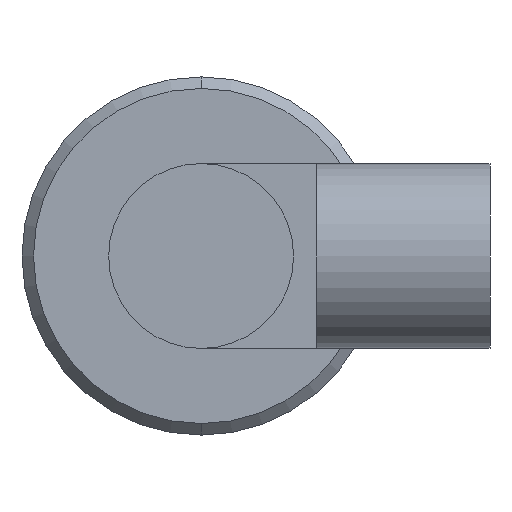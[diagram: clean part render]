
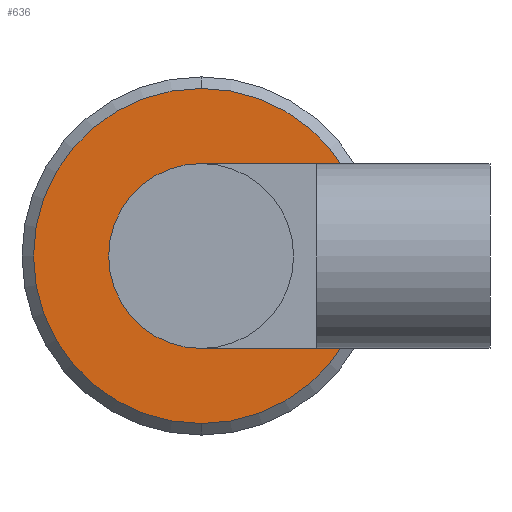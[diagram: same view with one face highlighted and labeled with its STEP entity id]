
A CAD part, left-side view. The second image highlights one B-rep face of the part: STEP entity #636.
In plain terms, the highlighted planar face has unit normal (-1, 0, 0).
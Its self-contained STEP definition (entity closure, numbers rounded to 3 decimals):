
#39 = VERTEX_POINT ( 'NONE', #258 ) ;
#66 = EDGE_CURVE ( 'NONE', #219, #39, #271, .T. ) ;
#70 = DIRECTION ( 'NONE',  ( 0., 0., -1. ) ) ;
#102 = AXIS2_PLACEMENT_3D ( 'NONE', #1330, #709, #70 ) ;
#138 = EDGE_CURVE ( 'NONE', #39, #219, #742, .T. ) ;
#177 = AXIS2_PLACEMENT_3D ( 'NONE', #812, #184, #918 ) ;
#184 = DIRECTION ( 'NONE',  ( 1., 0., 0. ) ) ;
#219 = VERTEX_POINT ( 'NONE', #1132 ) ;
#258 = CARTESIAN_POINT ( 'NONE',  ( 96.4, 0., 14.5 ) ) ;
#271 = CIRCLE ( 'NONE', #778, 14.5 ) ;
#294 = FACE_OUTER_BOUND ( 'NONE', #660, .T. ) ;
#301 = DIRECTION ( 'NONE',  ( -1., 0., 0. ) ) ;
#471 = CARTESIAN_POINT ( 'NONE',  ( 96.4, 0., 8. ) ) ;
#574 = ORIENTED_EDGE ( 'NONE', *, *, #138, .F. ) ;
#586 = DIRECTION ( 'NONE',  ( 1., 0., 0. ) ) ;
#612 = CARTESIAN_POINT ( 'NONE',  ( 96.4, 14.5, 0. ) ) ;
#633 = AXIS2_PLACEMENT_3D ( 'NONE', #612, #301, #1030 ) ;
#634 = CARTESIAN_POINT ( 'NONE',  ( 96.4, 0., 0. ) ) ;
#636 = ADVANCED_FACE ( 'NONE', ( #847, #294 ), #926, .T. ) ;
#660 = EDGE_LOOP ( 'NONE', ( #1216, #574 ) ) ;
#709 = DIRECTION ( 'NONE',  ( 1., 0., 0. ) ) ;
#729 = EDGE_CURVE ( 'NONE', #1339, #870, #756, .T. ) ;
#742 = CIRCLE ( 'NONE', #102, 14.5 ) ;
#744 = DIRECTION ( 'NONE',  ( 0., 0., -1. ) ) ;
#752 = ORIENTED_EDGE ( 'NONE', *, *, #800, .T. ) ;
#754 = CARTESIAN_POINT ( 'NONE',  ( 96.4, 0., -8. ) ) ;
#756 = CIRCLE ( 'NONE', #979, 8. ) ;
#778 = AXIS2_PLACEMENT_3D ( 'NONE', #1314, #586, #1212 ) ;
#800 = EDGE_CURVE ( 'NONE', #870, #1339, #991, .T. ) ;
#812 = CARTESIAN_POINT ( 'NONE',  ( 96.4, 0., 0. ) ) ;
#847 = FACE_BOUND ( 'NONE', #1249, .T. ) ;
#870 = VERTEX_POINT ( 'NONE', #754 ) ;
#918 = DIRECTION ( 'NONE',  ( 0., 0., -1. ) ) ;
#926 = PLANE ( 'NONE',  #633 ) ;
#979 = AXIS2_PLACEMENT_3D ( 'NONE', #634, #1353, #744 ) ;
#991 = CIRCLE ( 'NONE', #177, 8. ) ;
#1030 = DIRECTION ( 'NONE',  ( 0., 0., 1. ) ) ;
#1087 = ORIENTED_EDGE ( 'NONE', *, *, #729, .T. ) ;
#1132 = CARTESIAN_POINT ( 'NONE',  ( 96.4, 0., -14.5 ) ) ;
#1212 = DIRECTION ( 'NONE',  ( 0., 0., -1. ) ) ;
#1216 = ORIENTED_EDGE ( 'NONE', *, *, #66, .F. ) ;
#1249 = EDGE_LOOP ( 'NONE', ( #752, #1087 ) ) ;
#1314 = CARTESIAN_POINT ( 'NONE',  ( 96.4, 0., 0. ) ) ;
#1330 = CARTESIAN_POINT ( 'NONE',  ( 96.4, 0., 0. ) ) ;
#1339 = VERTEX_POINT ( 'NONE', #471 ) ;
#1353 = DIRECTION ( 'NONE',  ( 1., 0., 0. ) ) ;
